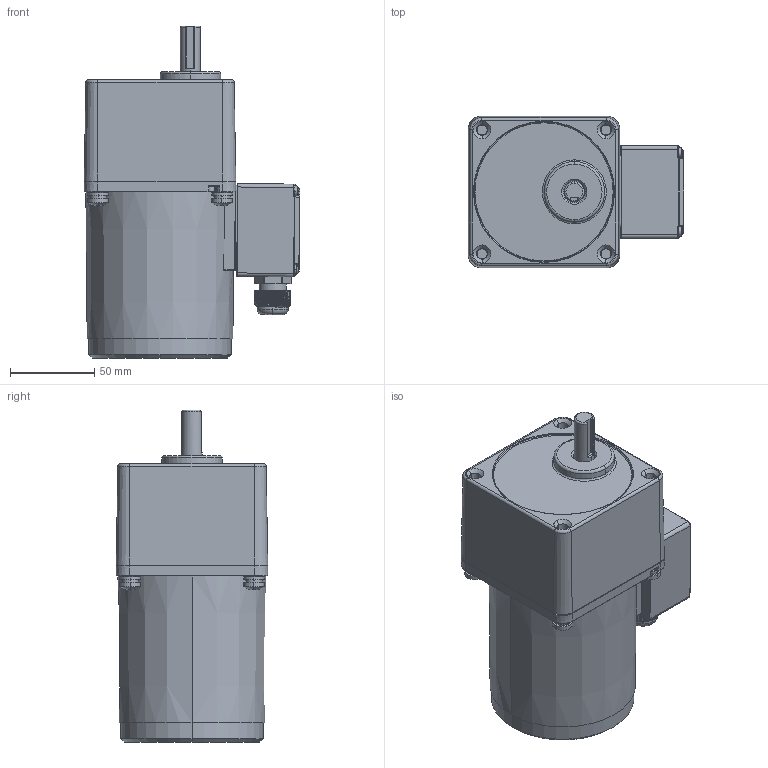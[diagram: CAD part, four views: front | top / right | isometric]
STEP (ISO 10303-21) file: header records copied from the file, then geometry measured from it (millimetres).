
FILE_DESCRIPTION (( 'STEP AP203' ), '1' );
FILE_NAME ('5IK40GN-CT(5GN3K-200K).STEP', '2020-04-09T02:09:01', ( 'Windows 蚚誧' ), ( '' ), 'SwSTEP 2.0', 'SolidWorks 2019', '' );
FILE_SCHEMA (( 'CONFIG_CONTROL_DESIGN' ));
Length unit declared in the file: millimetre
Products named in the file (12): PRT0004^3IK15GN-CT(3GN3K-200K）(2)_JXH-1; 9040TSJXHJK; 3IK15GN-CT(3GN3K-200K）(2)^JXH-1; 4IK25GN-CT_8^3IK15GN-CT(3GN3K-200K）(2)_JXH-1; JXH-1; SJQ^3IK15GN-CT(3GN3K-200K）(2)_JXH-1; 5IK40A-CT; M3^3IK15GN-CT(3GN3K-200K）(2)_JXH-1; 5GN3K‵200K; PRT0002^3IK15GN-CT(3GN3K-200K）(2)_JXH-1; 5IK40GN-CT(5GN3K-200K); PRT0003^3IK15GN-CT(3GN3K-200K）(2)_JXH-1
Assembly tree (11 placements, depth 5):
  5IK40GN-CT(5GN3K-200K)
    5IK40A-CT
      9040TSJXHJK
      JXH-1
        3IK15GN-CT(3GN3K-200K）(2)^JXH-1
          4IK25GN-CT_8^3IK15GN-CT(3GN3K-200K）(2)_JXH-1
          SJQ^3IK15GN-CT(3GN3K-200K）(2)_JXH-1
          M3^3IK15GN-CT(3GN3K-200K）(2)_JXH-1
          PRT0002^3IK15GN-CT(3GN3K-200K）(2)_JXH-1
          PRT0003^3IK15GN-CT(3GN3K-200K）(2)_JXH-1
          PRT0004^3IK15GN-CT(3GN3K-200K）(2)_JXH-1
    5GN3K‵200K
Bounding box: 127.95 x 90 x 197 mm (x, y, z)
Volume: 743629.5 mm3; surface area: 163050.9 mm2
Topology: 38 solids, 39 shells, 1777 faces, 4536 edges, 2852 vertices
Faces by surface type: cylinder 608, plane 494, cone 405, torus 148, sphere 74, bspline 48
Entity records: 61299 total; most frequent: CARTESIAN_POINT 16675, DIRECTION 9671, ORIENTED_EDGE 8972, EDGE_CURVE 4486, AXIS2_PLACEMENT_3D 4007, VERTEX_POINT 2844, CIRCLE 2261, EDGE_LOOP 1868
